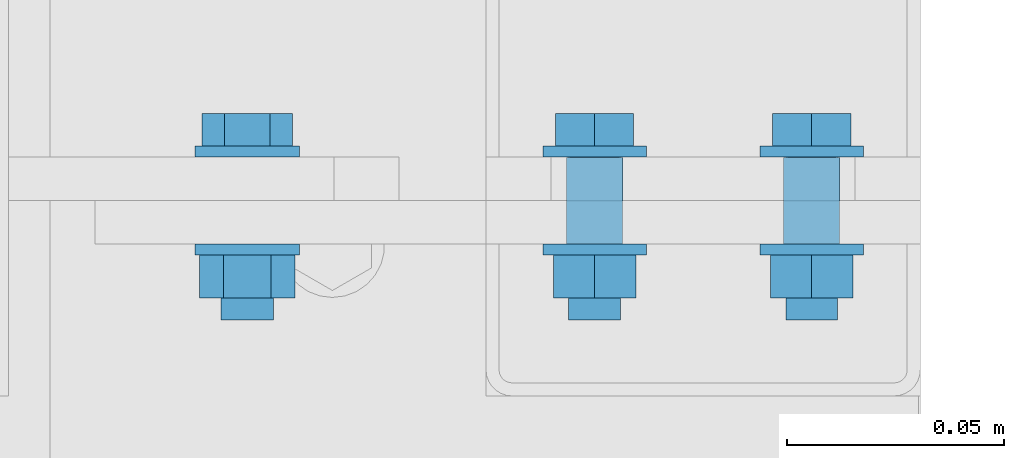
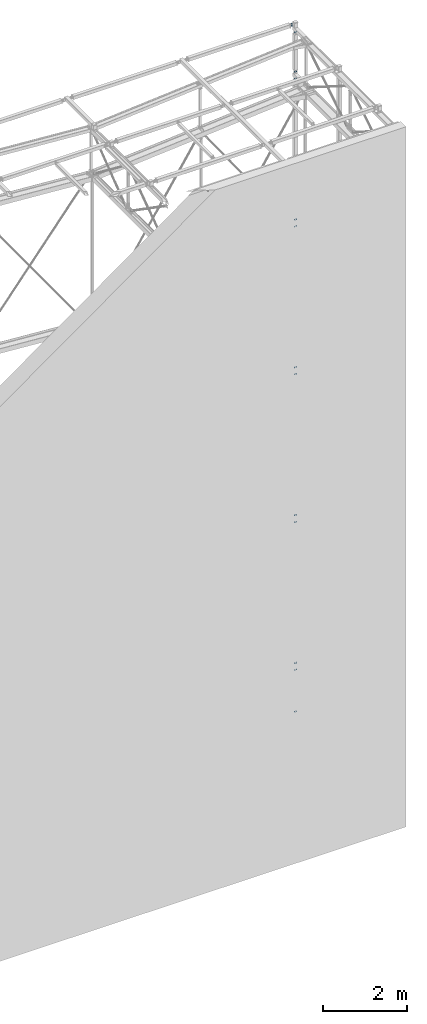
# One storey, part 271 of 271: 13 mechanical fasteners, 7 elements without a shape of their own.
"""IFC2X3 building model written with IfcOpenShell, lengths in millimetres."""

from ifc_helpers import new_model, si_unit, frame, frame_2d, origin_with_axes, origin_2d_with_axis, place, context, subcontext, project, spatial, polyline, circle_curve, parameter, trimmed, segment, composite_curve, circle, outline, extrude, source, transform, mapped, material, type_object, element, aggregate, save


model = new_model("IFC2X3")

# Units and contexts
model_context = context("Model", 3, precision=1e-05, world=origin_with_axes())
body_context = subcontext(model_context, "Body", "Model", "MODEL_VIEW")
ifc_project = project(units=[si_unit("LENGTHUNIT", "METRE", prefix="MILLI"), si_unit("AREAUNIT", "SQUARE_METRE"), si_unit("VOLUMEUNIT", "CUBIC_METRE"), si_unit("MASSUNIT", "GRAM", prefix="KILO"), si_unit("TIMEUNIT", "SECOND"), si_unit("PLANEANGLEUNIT", "RADIAN"), si_unit("SOLIDANGLEUNIT", "STERADIAN"), si_unit("THERMODYNAMICTEMPERATUREUNIT", "DEGREE_CELSIUS"), si_unit("LUMINOUSINTENSITYUNIT", "LUMEN")], contexts=[model_context])

# Site, building, storey
site_placement = place(None, origin_with_axes())
site = spatial("IfcSite", under=ifc_project, at=site_placement, Name="Undefined", CompositionType="ELEMENT")
building_placement = place(site_placement, origin_with_axes())
building = spatial("IfcBuilding", under=site, at=building_placement, Name="Undefined", CompositionType="ELEMENT")
storey_placement = place(building_placement, origin_with_axes())
storey = spatial("IfcBuildingStorey", under=building, at=storey_placement, Name="Undefined", CompositionType="ELEMENT", Elevation=0.0)

# Assembly, mechanical fastener
assembly_1_placement = place(storey_placement, origin_with_axes())
assembly_1 = element("IfcElementAssembly", 1, at=assembly_1_placement, inside=storey, AssemblyPlace="NOTDEFINED", PredefinedType="RIGID_FRAME")
ifc_material = material(Name="Undefined")
mechanical_fastener_type = type_object("IfcMechanicalFastenerType", Name="Bolt assembly")
shared_shape_1 = source(origin_with_axes(), body_context, "Body", "SweptSolid", [
    extrude(circle(Radius=6.5, at=origin_2d_with_axis()), frame((0.0, -5.1, 0.0), z_axis=(0.0, 1.0, 0.0), x_axis=(1.0, 0.0, 0.0)), (0.0, 0.0, 1.0), 10.1),
    extrude(circle(Radius=6.5, at=origin_2d_with_axis()), frame((0.0, -14.9000000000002, 0.0), z_axis=(0.0, 1.0, 0.0), x_axis=(1.0, 0.0, 0.0)), (0.0, 0.0, 1.0), 10.0),
    extrude(outline(polyline([(10.39230484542, 0.0), (5.19615242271, 9.00000000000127), (-5.19615242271, 9.00000000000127), (-10.39230484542, 0.0), (-5.19615242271, -9.00000000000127), (5.19615242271, -9.00000000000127), (10.39230484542, 0.0)])), frame((0.0, -25.0000000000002, 0.0), z_axis=(0.0, 1.0, 0.0), x_axis=(1.0, 0.0, 0.0)), (0.0, 0.0, 1.0), 7.5),
    extrude(circle(Radius=6.0, at=origin_2d_with_axis()), frame((0.0, -17.5000000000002, 0.0), z_axis=(0.0, 1.0, 0.0), x_axis=(1.0, 0.0, 0.0)), (0.0, 0.0, 1.0), 40.0),
    extrude(circle(Radius=12.0, at=origin_2d_with_axis()), frame((0.0, -17.5000000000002, 0.0), z_axis=(0.0, 1.0, 0.0), x_axis=(1.0, 0.0, 0.0)), (0.0, 0.0, 1.0), 2.5),
    extrude(circle(Radius=12.0, at=origin_2d_with_axis()), frame((0.0, 5.00000000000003, 0.0), z_axis=(0.0, 1.0, 0.0), x_axis=(1.0, 0.0, 0.0)), (0.0, 0.0, 1.0), 2.5),
    extrude(outline(polyline([(10.96965511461, 0.0), (5.484827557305, 9.50000000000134), (-5.484827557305, 9.50000000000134), (-10.96965511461, 0.0), (-5.484827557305, -9.50000000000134), (5.484827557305, -9.50000000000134), (10.96965511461, 0.0)])), frame((0.0, 7.50000000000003, 0.0), z_axis=(0.0, 1.0, 0.0), x_axis=(1.0, 0.0, 0.0)), (0.0, 0.0, 1.0), 10.0),
])
mechanical_fastener_1_placement = place(assembly_1_placement, frame((12658.3756870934, 4899.32498425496, 19909.3499999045), z_axis=(-1.0, 0.0, 1.38777878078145e-17), x_axis=(0.0, 0.0, -1.0)))
mechanical_fastener_1 = element("IfcMechanicalFastener", 2, at=mechanical_fastener_1_placement, type_object=mechanical_fastener_type, material=ifc_material, Name="Bolt assembly", NominalDiameter=12.0, NominalLength=40.0, context=body_context, shape_type="MappedRepresentation", body=[
    mapped(shared_shape_1, transform((0.0, 0.0, -25.0))),
    mapped(shared_shape_1, transform((0.0, 0.0, 25.0))),
])

assembly_2_placement = place(storey_placement, origin_with_axes())
assembly_2 = element("IfcElementAssembly", 3, at=assembly_2_placement, inside=storey, AssemblyPlace="NOTDEFINED", PredefinedType="RIGID_FRAME")
mechanical_fastener_2_placement = place(assembly_2_placement, frame((12658.3756870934, 4899.32498425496, 18549.3499999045), z_axis=(-1.0, 0.0, 1.38777878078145e-17), x_axis=(0.0, 0.0, -1.0)))
mechanical_fastener_2 = element("IfcMechanicalFastener", 4, at=mechanical_fastener_2_placement, type_object=mechanical_fastener_type, material=ifc_material, Name="Bolt assembly", NominalDiameter=12.0, NominalLength=40.0, context=body_context, shape_type="MappedRepresentation", body=[
    mapped(shared_shape_1, transform((0.0, 0.0, -25.0))),
    mapped(shared_shape_1, transform((0.0, 0.0, 25.0))),
])

# Assembly, mechanical fasteners
assembly_3_placement = place(storey_placement, origin_with_axes())
assembly_3 = element("IfcElementAssembly", 5, at=assembly_3_placement, inside=storey, AssemblyPlace="NOTDEFINED", PredefinedType="RIGID_FRAME")
mechanical_fastener_3_placement = place(assembly_3_placement, frame((12658.3756870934, 4899.32498425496, 54.3499999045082), z_axis=(1.0, 0.0, 0.0), x_axis=(0.0, 0.0, 1.0)))
mechanical_fastener_3 = element("IfcMechanicalFastener", 6, at=mechanical_fastener_3_placement, type_object=mechanical_fastener_type, material=ifc_material, Name="Bolt assembly", NominalDiameter=12.0, NominalLength=40.0, context=body_context, shape_type="MappedRepresentation", body=[
    mapped(shared_shape_1, transform((0.0, 0.0, -25.0))),
    mapped(shared_shape_1, transform((0.0, 0.0, 25.0))),
])
mechanical_fastener_4_placement = place(assembly_3_placement, frame((12658.3756870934, 4899.32498425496, 1269.34999990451), z_axis=(-1.0, 0.0, 1.38777878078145e-17), x_axis=(0.0, 0.0, -1.0)))
mechanical_fastener_4 = element("IfcMechanicalFastener", 7, at=mechanical_fastener_4_placement, type_object=mechanical_fastener_type, material=ifc_material, Name="Bolt assembly", NominalDiameter=12.0, NominalLength=40.0, context=body_context, shape_type="MappedRepresentation", body=[
    mapped(shared_shape_1, transform((0.0, 0.0, -25.0))),
    mapped(shared_shape_1, transform((0.0, 0.0, 25.0))),
])
aggregate(assembly_3, [mechanical_fastener_3, mechanical_fastener_4])

# Assembly, mechanical fastener
assembly_4_placement = place(storey_placement, origin_with_axes())
assembly_4 = element("IfcElementAssembly", 8, at=assembly_4_placement, inside=storey, AssemblyPlace="NOTDEFINED", PredefinedType="RIGID_FRAME")
mechanical_fastener_5_placement = place(assembly_4_placement, frame((12658.3756870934, 4899.32498425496, 5589.34999990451), z_axis=(-1.0, 0.0, 1.38777878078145e-17), x_axis=(0.0, 0.0, -1.0)))
mechanical_fastener_5 = element("IfcMechanicalFastener", 9, at=mechanical_fastener_5_placement, type_object=mechanical_fastener_type, material=ifc_material, Name="Bolt assembly", NominalDiameter=12.0, NominalLength=40.0, context=body_context, shape_type="MappedRepresentation", body=[
    mapped(shared_shape_1, transform((0.0, 0.0, -25.0))),
    mapped(shared_shape_1, transform((0.0, 0.0, 25.0))),
])

assembly_5_placement = place(storey_placement, origin_with_axes())
assembly_5 = element("IfcElementAssembly", 10, at=assembly_5_placement, inside=storey, AssemblyPlace="NOTDEFINED", PredefinedType="RIGID_FRAME")
mechanical_fastener_6_placement = place(assembly_5_placement, frame((12658.3756870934, 4899.32498425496, 9909.34999990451), z_axis=(-1.0, 0.0, 1.38777878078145e-17), x_axis=(0.0, 0.0, -1.0)))
mechanical_fastener_6 = element("IfcMechanicalFastener", 11, at=mechanical_fastener_6_placement, type_object=mechanical_fastener_type, material=ifc_material, Name="Bolt assembly", NominalDiameter=12.0, NominalLength=40.0, context=body_context, shape_type="MappedRepresentation", body=[
    mapped(shared_shape_1, transform((0.0, 0.0, -25.0))),
    mapped(shared_shape_1, transform((0.0, 0.0, 25.0))),
])

assembly_6_placement = place(storey_placement, origin_with_axes())
assembly_6 = element("IfcElementAssembly", 12, at=assembly_6_placement, inside=storey, AssemblyPlace="NOTDEFINED", PredefinedType="RIGID_FRAME")
mechanical_fastener_7_placement = place(assembly_6_placement, frame((12658.3756870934, 4899.32498425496, 14229.3499999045), z_axis=(-1.0, 0.0, 1.38777878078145e-17), x_axis=(0.0, 0.0, -1.0)))
mechanical_fastener_7 = element("IfcMechanicalFastener", 13, at=mechanical_fastener_7_placement, type_object=mechanical_fastener_type, material=ifc_material, Name="Bolt assembly", NominalDiameter=12.0, NominalLength=40.0, context=body_context, shape_type="MappedRepresentation", body=[
    mapped(shared_shape_1, transform((0.0, 0.0, -25.0))),
    mapped(shared_shape_1, transform((0.0, 0.0, 25.0))),
])

assembly_7_placement = place(storey_placement, origin_with_axes())
assembly_7 = element("IfcElementAssembly", 14, at=assembly_7_placement, inside=storey, AssemblyPlace="NOTDEFINED", PredefinedType="RIGID_FRAME")
shared_shape_2 = source(origin_with_axes(), body_context, "Body", "SweptSolid", [
    extrude(circle(Radius=6.5, at=origin_2d_with_axis()), frame((0.0, -5.1, 0.0), z_axis=(0.0, 1.0, 0.0), x_axis=(1.0, 0.0, 0.0)), (0.0, 0.0, 1.0), 10.1),
    extrude(outline(composite_curve([segment(polyline([(-13.5, 6.5), (13.5, 6.5)]), True, "CONTINUOUS"), segment(trimmed(circle_curve(frame_2d((13.5, 0.0), x_axis=(0.0, 1.0)), 6.5), [parameter(0.0)], [parameter(3.14159265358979)], False, "PARAMETER"), True, "CONTINUOUS"), segment(polyline([(13.5, -6.5), (-13.5, -6.5)]), True, "CONTINUOUS"), segment(trimmed(circle_curve(frame_2d((-13.5, 0.0), x_axis=(0.0, -1.0)), 6.5), [parameter(0.0)], [parameter(3.14159265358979)], False, "PARAMETER"), True, "DISCONTINUOUS")], self_intersect=False)), frame((0.0, -14.9000000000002, 0.0), z_axis=(0.0, 1.0, 0.0), x_axis=(1.0, 0.0, 0.0)), (0.0, 0.0, 1.0), 10.0),
    extrude(outline(polyline([(10.39230484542, 0.0), (5.19615242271, 9.00000000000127), (-5.19615242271, 9.00000000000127), (-10.39230484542, 0.0), (-5.19615242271, -9.00000000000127), (5.19615242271, -9.00000000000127), (10.39230484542, 0.0)])), frame((0.0, -25.0000000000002, 0.0), z_axis=(0.0, 1.0, 0.0), x_axis=(1.0, 0.0, 0.0)), (0.0, 0.0, 1.0), 7.5),
    extrude(circle(Radius=6.0, at=origin_2d_with_axis()), frame((0.0, -17.5000000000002, 0.0), z_axis=(0.0, 1.0, 0.0), x_axis=(1.0, 0.0, 0.0)), (0.0, 0.0, 1.0), 40.0),
    extrude(circle(Radius=12.0, at=origin_2d_with_axis()), frame((0.0, -17.5000000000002, 0.0), z_axis=(0.0, 1.0, 0.0), x_axis=(1.0, 0.0, 0.0)), (0.0, 0.0, 1.0), 2.5),
    extrude(circle(Radius=12.0, at=origin_2d_with_axis()), frame((0.0, 5.00000000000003, 0.0), z_axis=(0.0, 1.0, 0.0), x_axis=(1.0, 0.0, 0.0)), (0.0, 0.0, 1.0), 2.5),
    extrude(outline(polyline([(10.96965511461, 0.0), (5.484827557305, 9.50000000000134), (-5.484827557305, 9.50000000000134), (-10.96965511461, 0.0), (-5.484827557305, -9.50000000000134), (5.484827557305, -9.50000000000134), (10.96965511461, 0.0)])), frame((0.0, 7.50000000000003, 0.0), z_axis=(0.0, 1.0, 0.0), x_axis=(1.0, 0.0, 0.0)), (0.0, 0.0, 1.0), 10.0),
])
mechanical_fastener_8_placement = place(assembly_7_placement, frame((12553.3756870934, 4899.32498425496, 20154.3499999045), z_axis=(0.0, 0.0, 1.0), x_axis=(-1.0, 0.0, 1.38777878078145e-17)))
mechanical_fastener_8 = element("IfcMechanicalFastener", 15, at=mechanical_fastener_8_placement, type_object=mechanical_fastener_type, material=ifc_material, Name="Bolt assembly", NominalDiameter=12.0, NominalLength=40.0, context=body_context, shape_type="MappedRepresentation", body=[
    mapped(shared_shape_2, transform((0.0, 0.0, -25.0))),
    mapped(shared_shape_2, transform((0.0, 0.0, 25.0))),
])
aggregate(assembly_7, [mechanical_fastener_8])

# Mechanical fastener
shared_shape_3 = source(origin_with_axes(), body_context, "Body", "SweptSolid", [
    extrude(circle(Radius=6.5, at=origin_2d_with_axis()), frame((0.0, -5.1, 0.0), z_axis=(0.0, 1.0, 0.0), x_axis=(1.0, 0.0, 0.0)), (0.0, 0.0, 1.0), 10.1),
    extrude(outline(composite_curve([segment(polyline([(-13.5, 6.5), (13.5, 6.5)]), True, "CONTINUOUS"), segment(trimmed(circle_curve(frame_2d((13.5, 0.0), x_axis=(0.0, 1.0)), 6.5), [parameter(0.0)], [parameter(3.14159265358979)], False, "PARAMETER"), True, "CONTINUOUS"), segment(polyline([(13.5, -6.5), (-13.5, -6.5)]), True, "CONTINUOUS"), segment(trimmed(circle_curve(frame_2d((-13.5, 0.0), x_axis=(0.0, -1.0)), 6.5), [parameter(0.0)], [parameter(3.14159265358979)], False, "PARAMETER"), True, "DISCONTINUOUS")], self_intersect=False)), frame((0.0, -14.9000000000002, 0.0), z_axis=(0.0, 1.0, 0.0), x_axis=(1.0, 0.0, 0.0)), (0.0, 0.0, 1.0), 10.0),
    extrude(outline(polyline([(10.39230484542, 0.0), (5.19615242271, 9.00000000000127), (-5.19615242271, 9.00000000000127), (-10.39230484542, 0.0), (-5.19615242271, -9.00000000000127), (5.19615242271, -9.00000000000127), (10.39230484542, 0.0)])), frame((0.0, -25.0000000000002, 0.0), z_axis=(0.0, 1.0, 0.0), x_axis=(1.0, 0.0, 0.0)), (0.0, 0.0, 1.0), 7.5),
    extrude(circle(Radius=6.0, at=origin_2d_with_axis()), frame((0.0, -17.5000000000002, 0.0), z_axis=(0.0, 1.0, 0.0), x_axis=(1.0, 0.0, 0.0)), (0.0, 0.0, 1.0), 40.0),
    extrude(circle(Radius=12.0, at=origin_2d_with_axis()), frame((0.0, -17.5000000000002, 0.0), z_axis=(0.0, 1.0, 0.0), x_axis=(1.0, 0.0, 0.0)), (0.0, 0.0, 1.0), 2.5),
    extrude(circle(Radius=12.0, at=origin_2d_with_axis()), frame((0.0, 5.00000000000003, 0.0), z_axis=(0.0, 1.0, 0.0), x_axis=(1.0, 0.0, 0.0)), (0.0, 0.0, 1.0), 2.5),
    extrude(outline(polyline([(10.96965511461, 0.0), (5.484827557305, 9.50000000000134), (-5.484827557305, 9.50000000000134), (-10.96965511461, 0.0), (-5.484827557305, -9.50000000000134), (5.484827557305, -9.50000000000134), (10.96965511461, 0.0)])), frame((0.0, 7.50000000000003, 0.0), z_axis=(0.0, 1.0, 0.0), x_axis=(1.0, 0.0, 0.0)), (0.0, 0.0, 1.0), 10.0),
])
mechanical_fastener_9_placement = place(assembly_1_placement, frame((12658.3756870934, 4899.32498425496, 18749.3499999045), z_axis=(1.0, 0.0, 0.0), x_axis=(0.0, 0.0, 1.0)))
mechanical_fastener_9 = element("IfcMechanicalFastener", 16, at=mechanical_fastener_9_placement, type_object=mechanical_fastener_type, material=ifc_material, Name="Bolt assembly", NominalDiameter=12.0, NominalLength=40.0, context=body_context, shape_type="MappedRepresentation", body=[
    mapped(shared_shape_3, transform((0.0, 0.0, -25.0))),
    mapped(shared_shape_3, transform((0.0, 0.0, 25.0))),
])

aggregate(assembly_1, [mechanical_fastener_1, mechanical_fastener_9])

shared_shape_4 = source(origin_with_axes(), body_context, "Body", "SweptSolid", [
    extrude(circle(Radius=6.5, at=origin_2d_with_axis()), frame((0.0, -5.1, 0.0), z_axis=(0.0, 1.0, 0.0), x_axis=(1.0, 0.0, 0.0)), (0.0, 0.0, 1.0), 10.1),
    extrude(outline(composite_curve([segment(polyline([(-13.5, 6.5), (13.5, 6.5)]), True, "CONTINUOUS"), segment(trimmed(circle_curve(frame_2d((13.5, 0.0), x_axis=(0.0, 1.0)), 6.5), [parameter(0.0)], [parameter(3.14159265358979)], False, "PARAMETER"), True, "CONTINUOUS"), segment(polyline([(13.5, -6.5), (-13.5, -6.5)]), True, "CONTINUOUS"), segment(trimmed(circle_curve(frame_2d((-13.5, 0.0), x_axis=(0.0, -1.0)), 6.5), [parameter(0.0)], [parameter(3.14159265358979)], False, "PARAMETER"), True, "DISCONTINUOUS")], self_intersect=False)), frame((0.0, -14.9000000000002, 0.0), z_axis=(0.0, 1.0, 0.0), x_axis=(1.0, 0.0, 0.0)), (0.0, 0.0, 1.0), 10.0),
    extrude(outline(polyline([(10.39230484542, 0.0), (5.19615242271, 9.00000000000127), (-5.19615242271, 9.00000000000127), (-10.39230484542, 0.0), (-5.19615242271, -9.00000000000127), (5.19615242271, -9.00000000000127), (10.39230484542, 0.0)])), frame((0.0, -25.0000000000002, 0.0), z_axis=(0.0, 1.0, 0.0), x_axis=(1.0, 0.0, 0.0)), (0.0, 0.0, 1.0), 7.5),
    extrude(circle(Radius=6.0, at=origin_2d_with_axis()), frame((0.0, -17.5000000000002, 0.0), z_axis=(0.0, 1.0, 0.0), x_axis=(1.0, 0.0, 0.0)), (0.0, 0.0, 1.0), 40.0),
    extrude(circle(Radius=12.0, at=origin_2d_with_axis()), frame((0.0, -17.5000000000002, 0.0), z_axis=(0.0, 1.0, 0.0), x_axis=(1.0, 0.0, 0.0)), (0.0, 0.0, 1.0), 2.5),
    extrude(circle(Radius=12.0, at=origin_2d_with_axis()), frame((0.0, 5.00000000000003, 0.0), z_axis=(0.0, 1.0, 0.0), x_axis=(1.0, 0.0, 0.0)), (0.0, 0.0, 1.0), 2.5),
    extrude(outline(polyline([(10.96965511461, 0.0), (5.484827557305, 9.50000000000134), (-5.484827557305, 9.50000000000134), (-10.96965511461, 0.0), (-5.484827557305, -9.50000000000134), (5.484827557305, -9.50000000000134), (10.96965511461, 0.0)])), frame((0.0, 7.50000000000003, 0.0), z_axis=(0.0, 1.0, 0.0), x_axis=(1.0, 0.0, 0.0)), (0.0, 0.0, 1.0), 10.0),
])
mechanical_fastener_10_placement = place(assembly_4_placement, frame((12658.3756870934, 4899.32498425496, 1469.34999990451), z_axis=(1.0, 0.0, 0.0), x_axis=(0.0, 0.0, 1.0)))
mechanical_fastener_10 = element("IfcMechanicalFastener", 17, at=mechanical_fastener_10_placement, type_object=mechanical_fastener_type, material=ifc_material, Name="Bolt assembly", NominalDiameter=12.0, NominalLength=40.0, context=body_context, shape_type="MappedRepresentation", body=[
    mapped(shared_shape_4, transform((0.0, 0.0, -25.0))),
    mapped(shared_shape_4, transform((0.0, 0.0, 25.0))),
])

aggregate(assembly_4, [mechanical_fastener_10, mechanical_fastener_5])

shared_shape_5 = source(origin_with_axes(), body_context, "Body", "SweptSolid", [
    extrude(circle(Radius=6.5, at=origin_2d_with_axis()), frame((0.0, -5.1, 0.0), z_axis=(0.0, 1.0, 0.0), x_axis=(1.0, 0.0, 0.0)), (0.0, 0.0, 1.0), 10.1),
    extrude(outline(composite_curve([segment(polyline([(-13.5, 6.5), (13.5, 6.5)]), True, "CONTINUOUS"), segment(trimmed(circle_curve(frame_2d((13.5, 0.0), x_axis=(0.0, 1.0)), 6.5), [parameter(0.0)], [parameter(3.14159265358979)], False, "PARAMETER"), True, "CONTINUOUS"), segment(polyline([(13.5, -6.5), (-13.5, -6.5)]), True, "CONTINUOUS"), segment(trimmed(circle_curve(frame_2d((-13.5, 0.0), x_axis=(0.0, -1.0)), 6.5), [parameter(0.0)], [parameter(3.14159265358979)], False, "PARAMETER"), True, "DISCONTINUOUS")], self_intersect=False)), frame((0.0, -14.9000000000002, 0.0), z_axis=(0.0, 1.0, 0.0), x_axis=(1.0, 0.0, 0.0)), (0.0, 0.0, 1.0), 10.0),
    extrude(outline(polyline([(10.39230484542, 0.0), (5.19615242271, 9.00000000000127), (-5.19615242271, 9.00000000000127), (-10.39230484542, 0.0), (-5.19615242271, -9.00000000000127), (5.19615242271, -9.00000000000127), (10.39230484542, 0.0)])), frame((0.0, -25.0000000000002, 0.0), z_axis=(0.0, 1.0, 0.0), x_axis=(1.0, 0.0, 0.0)), (0.0, 0.0, 1.0), 7.5),
    extrude(circle(Radius=6.0, at=origin_2d_with_axis()), frame((0.0, -17.5000000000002, 0.0), z_axis=(0.0, 1.0, 0.0), x_axis=(1.0, 0.0, 0.0)), (0.0, 0.0, 1.0), 40.0),
    extrude(circle(Radius=12.0, at=origin_2d_with_axis()), frame((0.0, -17.5000000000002, 0.0), z_axis=(0.0, 1.0, 0.0), x_axis=(1.0, 0.0, 0.0)), (0.0, 0.0, 1.0), 2.5),
    extrude(circle(Radius=12.0, at=origin_2d_with_axis()), frame((0.0, 5.00000000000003, 0.0), z_axis=(0.0, 1.0, 0.0), x_axis=(1.0, 0.0, 0.0)), (0.0, 0.0, 1.0), 2.5),
    extrude(outline(polyline([(10.96965511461, 0.0), (5.484827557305, 9.50000000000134), (-5.484827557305, 9.50000000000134), (-10.96965511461, 0.0), (-5.484827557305, -9.50000000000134), (5.484827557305, -9.50000000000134), (10.96965511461, 0.0)])), frame((0.0, 7.50000000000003, 0.0), z_axis=(0.0, 1.0, 0.0), x_axis=(1.0, 0.0, 0.0)), (0.0, 0.0, 1.0), 10.0),
])
mechanical_fastener_11_placement = place(assembly_5_placement, frame((12658.3756870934, 4899.32498425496, 5789.34999990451), z_axis=(1.0, 0.0, 0.0), x_axis=(0.0, 0.0, 1.0)))
mechanical_fastener_11 = element("IfcMechanicalFastener", 18, at=mechanical_fastener_11_placement, type_object=mechanical_fastener_type, material=ifc_material, Name="Bolt assembly", NominalDiameter=12.0, NominalLength=40.0, context=body_context, shape_type="MappedRepresentation", body=[
    mapped(shared_shape_5, transform((0.0, 0.0, -25.0))),
    mapped(shared_shape_5, transform((0.0, 0.0, 25.0))),
])

aggregate(assembly_5, [mechanical_fastener_11, mechanical_fastener_6])

shared_shape_6 = source(origin_with_axes(), body_context, "Body", "SweptSolid", [
    extrude(circle(Radius=6.5, at=origin_2d_with_axis()), frame((0.0, -5.1, 0.0), z_axis=(0.0, 1.0, 0.0), x_axis=(1.0, 0.0, 0.0)), (0.0, 0.0, 1.0), 10.1),
    extrude(outline(composite_curve([segment(polyline([(-13.5, 6.5), (13.5, 6.5)]), True, "CONTINUOUS"), segment(trimmed(circle_curve(frame_2d((13.5, 0.0), x_axis=(0.0, 1.0)), 6.5), [parameter(0.0)], [parameter(3.14159265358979)], False, "PARAMETER"), True, "CONTINUOUS"), segment(polyline([(13.5, -6.5), (-13.5, -6.5)]), True, "CONTINUOUS"), segment(trimmed(circle_curve(frame_2d((-13.5, 0.0), x_axis=(0.0, -1.0)), 6.5), [parameter(0.0)], [parameter(3.14159265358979)], False, "PARAMETER"), True, "DISCONTINUOUS")], self_intersect=False)), frame((0.0, -14.9000000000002, 0.0), z_axis=(0.0, 1.0, 0.0), x_axis=(1.0, 0.0, 0.0)), (0.0, 0.0, 1.0), 10.0),
    extrude(outline(polyline([(10.39230484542, 0.0), (5.19615242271, 9.00000000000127), (-5.19615242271, 9.00000000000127), (-10.39230484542, 0.0), (-5.19615242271, -9.00000000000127), (5.19615242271, -9.00000000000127), (10.39230484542, 0.0)])), frame((0.0, -25.0000000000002, 0.0), z_axis=(0.0, 1.0, 0.0), x_axis=(1.0, 0.0, 0.0)), (0.0, 0.0, 1.0), 7.5),
    extrude(circle(Radius=6.0, at=origin_2d_with_axis()), frame((0.0, -17.5000000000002, 0.0), z_axis=(0.0, 1.0, 0.0), x_axis=(1.0, 0.0, 0.0)), (0.0, 0.0, 1.0), 40.0),
    extrude(circle(Radius=12.0, at=origin_2d_with_axis()), frame((0.0, -17.5000000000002, 0.0), z_axis=(0.0, 1.0, 0.0), x_axis=(1.0, 0.0, 0.0)), (0.0, 0.0, 1.0), 2.5),
    extrude(circle(Radius=12.0, at=origin_2d_with_axis()), frame((0.0, 5.00000000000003, 0.0), z_axis=(0.0, 1.0, 0.0), x_axis=(1.0, 0.0, 0.0)), (0.0, 0.0, 1.0), 2.5),
    extrude(outline(polyline([(10.96965511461, 0.0), (5.484827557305, 9.50000000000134), (-5.484827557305, 9.50000000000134), (-10.96965511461, 0.0), (-5.484827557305, -9.50000000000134), (5.484827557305, -9.50000000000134), (10.96965511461, 0.0)])), frame((0.0, 7.50000000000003, 0.0), z_axis=(0.0, 1.0, 0.0), x_axis=(1.0, 0.0, 0.0)), (0.0, 0.0, 1.0), 10.0),
])
mechanical_fastener_12_placement = place(assembly_6_placement, frame((12658.3756870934, 4899.32498425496, 10109.3499999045), z_axis=(1.0, 0.0, 0.0), x_axis=(0.0, 0.0, 1.0)))
mechanical_fastener_12 = element("IfcMechanicalFastener", 19, at=mechanical_fastener_12_placement, type_object=mechanical_fastener_type, material=ifc_material, Name="Bolt assembly", NominalDiameter=12.0, NominalLength=40.0, context=body_context, shape_type="MappedRepresentation", body=[
    mapped(shared_shape_6, transform((0.0, 0.0, -25.0))),
    mapped(shared_shape_6, transform((0.0, 0.0, 25.0))),
])

aggregate(assembly_6, [mechanical_fastener_12, mechanical_fastener_7])

shared_shape_7 = source(origin_with_axes(), body_context, "Body", "SweptSolid", [
    extrude(circle(Radius=6.5, at=origin_2d_with_axis()), frame((0.0, -5.1, 0.0), z_axis=(0.0, 1.0, 0.0), x_axis=(1.0, 0.0, 0.0)), (0.0, 0.0, 1.0), 10.1),
    extrude(outline(composite_curve([segment(polyline([(-13.5, 6.5), (13.5, 6.5)]), True, "CONTINUOUS"), segment(trimmed(circle_curve(frame_2d((13.5, 0.0), x_axis=(0.0, 1.0)), 6.5), [parameter(0.0)], [parameter(3.14159265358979)], False, "PARAMETER"), True, "CONTINUOUS"), segment(polyline([(13.5, -6.5), (-13.5, -6.5)]), True, "CONTINUOUS"), segment(trimmed(circle_curve(frame_2d((-13.5, 0.0), x_axis=(0.0, -1.0)), 6.5), [parameter(0.0)], [parameter(3.14159265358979)], False, "PARAMETER"), True, "DISCONTINUOUS")], self_intersect=False)), frame((0.0, -14.9000000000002, 0.0), z_axis=(0.0, 1.0, 0.0), x_axis=(1.0, 0.0, 0.0)), (0.0, 0.0, 1.0), 10.0),
    extrude(outline(polyline([(10.39230484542, 0.0), (5.19615242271, 9.00000000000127), (-5.19615242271, 9.00000000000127), (-10.39230484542, 0.0), (-5.19615242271, -9.00000000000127), (5.19615242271, -9.00000000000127), (10.39230484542, 0.0)])), frame((0.0, -25.0000000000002, 0.0), z_axis=(0.0, 1.0, 0.0), x_axis=(1.0, 0.0, 0.0)), (0.0, 0.0, 1.0), 7.5),
    extrude(circle(Radius=6.0, at=origin_2d_with_axis()), frame((0.0, -17.5000000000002, 0.0), z_axis=(0.0, 1.0, 0.0), x_axis=(1.0, 0.0, 0.0)), (0.0, 0.0, 1.0), 40.0),
    extrude(circle(Radius=12.0, at=origin_2d_with_axis()), frame((0.0, -17.5000000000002, 0.0), z_axis=(0.0, 1.0, 0.0), x_axis=(1.0, 0.0, 0.0)), (0.0, 0.0, 1.0), 2.5),
    extrude(circle(Radius=12.0, at=origin_2d_with_axis()), frame((0.0, 5.00000000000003, 0.0), z_axis=(0.0, 1.0, 0.0), x_axis=(1.0, 0.0, 0.0)), (0.0, 0.0, 1.0), 2.5),
    extrude(outline(polyline([(10.96965511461, 0.0), (5.484827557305, 9.50000000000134), (-5.484827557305, 9.50000000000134), (-10.96965511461, 0.0), (-5.484827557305, -9.50000000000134), (5.484827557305, -9.50000000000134), (10.96965511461, 0.0)])), frame((0.0, 7.50000000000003, 0.0), z_axis=(0.0, 1.0, 0.0), x_axis=(1.0, 0.0, 0.0)), (0.0, 0.0, 1.0), 10.0),
])
mechanical_fastener_13_placement = place(assembly_2_placement, frame((12658.3756870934, 4899.32498425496, 14429.3499999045), z_axis=(1.0, 0.0, 0.0), x_axis=(0.0, 0.0, 1.0)))
mechanical_fastener_13 = element("IfcMechanicalFastener", 20, at=mechanical_fastener_13_placement, type_object=mechanical_fastener_type, material=ifc_material, Name="Bolt assembly", NominalDiameter=12.0, NominalLength=40.0, context=body_context, shape_type="MappedRepresentation", body=[
    mapped(shared_shape_7, transform((0.0, 0.0, -25.0))),
    mapped(shared_shape_7, transform((0.0, 0.0, 25.0))),
])

aggregate(assembly_2, [mechanical_fastener_2, mechanical_fastener_13])

save(model, "model.ifc")
